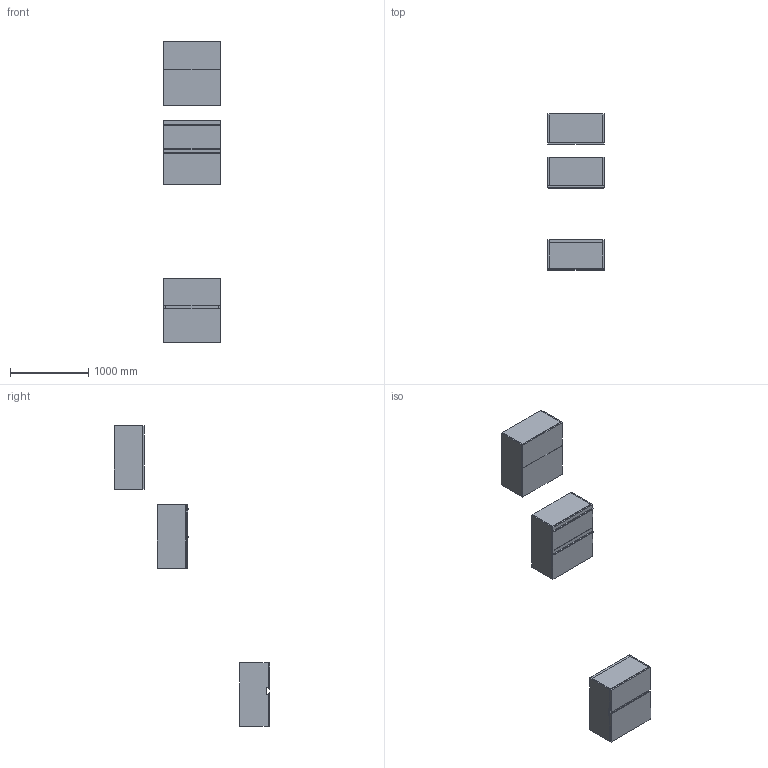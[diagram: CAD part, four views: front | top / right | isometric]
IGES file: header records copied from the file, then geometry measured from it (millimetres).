
Start section: Data from Parasolid IGES Translator 19.0.9, Copyright(c) 2006 Siemens PL M Software. All Rights Reserved.
Global section: file name: noorth-SI-H 81,2 D 38,8 W 72_8685.igs; native system: By Siemens PLM Incorporated; preprocessor: XPlus GENERIC/IGES 19.0.9; author: Noname; organization: Noname; date: 20200601.123239; units: metre
Bounding box: 720 x 1986 x 3842 mm (x, y, z)
Volume: 91822043.8 mm3; surface area: 14342581.3 mm2
Topology: 25 solids, 25 shells, 254 faces, 556 edges, 332 vertices
Faces by surface type: plane 170, extrusion 36, bspline 32, cylinder 16
